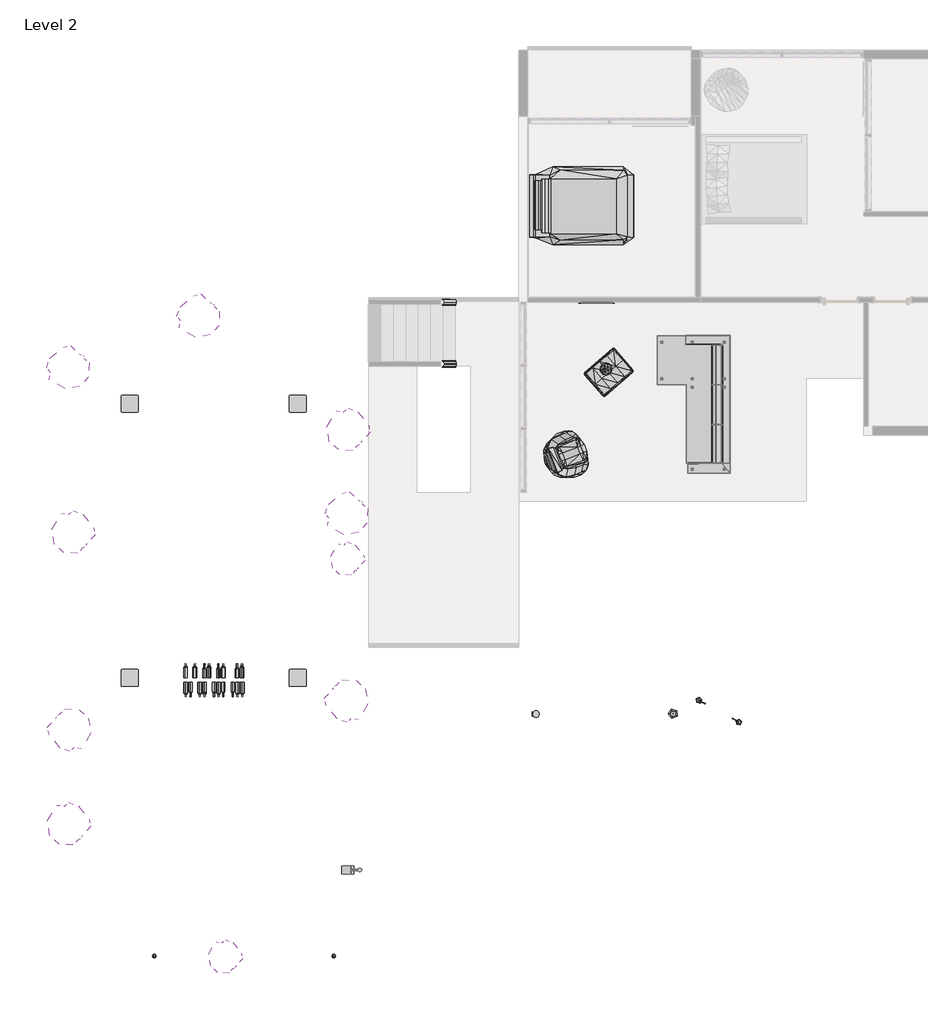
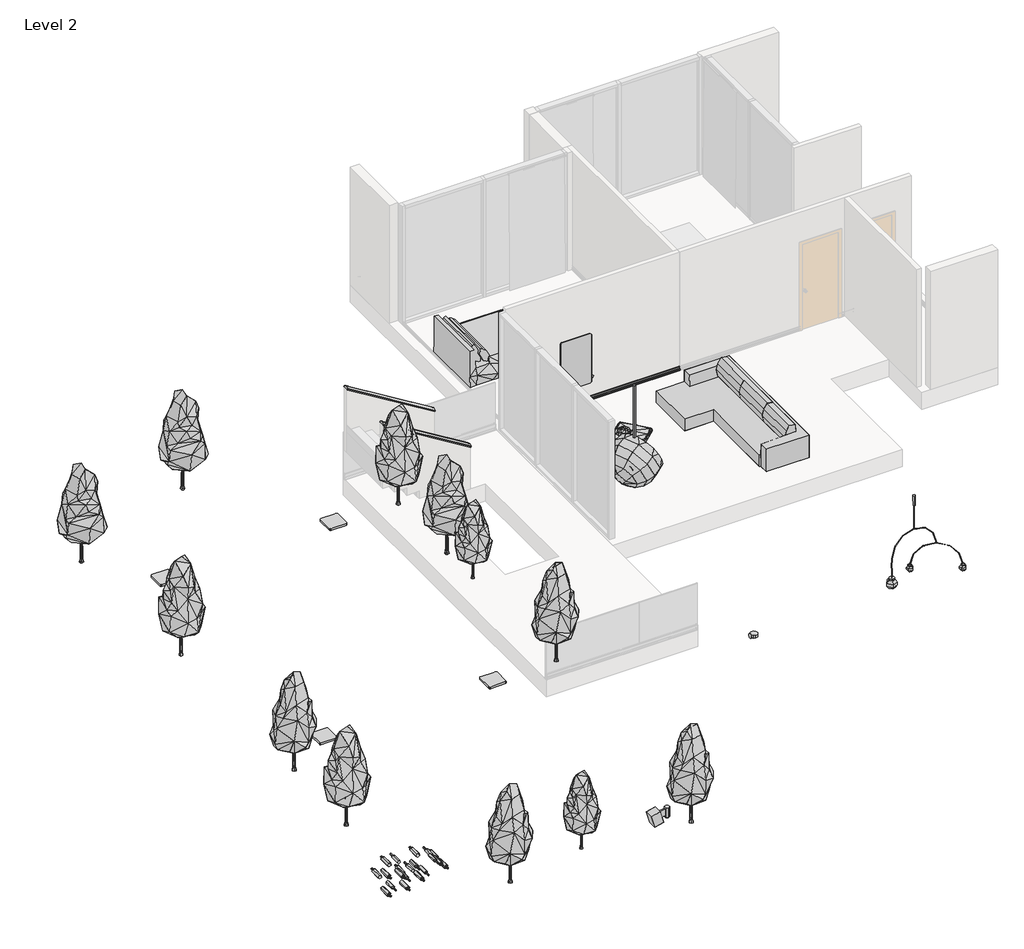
# One storey, part 2 of 4: 44 geographic elements, 3 proxies.
"""IFC4 building model written with IfcOpenShell, lengths in millimetres."""

from ifc_helpers import new_model, si_unit, frame, origin, place, context, project, spatial, polyline, circle_curve, ellipse_curve, transform, mapped, element, save
from ifc_brep_helpers import plane_surface, cylinder_surface, revolved_surface, advanced_brep
from components import generic_models_13_generic_models_13_96213cae, generic_models_14_generic_models_13_79633aa3, geographic_element_70561a7e, geographic_element_4481aa39, geographic_element_8738e9c9, geographic_element_a222e020, enscape_assetdefinition_armchair_053_enscape_assetdefinition_fb0e28e1, enscape_assetdefinition_bottle_005_wine_enscape_f84a86c7, enscape_assetdefinition_bottle_007_enscape_assetdefinition_5efa946b, enscape_assetdefinition_ceiling_lamp_001_enscape_b66385b6, enscape_assetdefinition_ceiling_lamp_001_enscape_6d65e554, enscape_assetdefinition_pendant_lamp_015_enscape_c86082a4, enscape_assetdefinition_photo_grid_001_enscape_8e951b4d, enscape_assetdefinition_pillow_017_enscape_assetdefinition_b1578f92, enscape_assetdefinition_speaker_005_enscape_assetdefinition_121e6e26, enscape_assetdefinition_wall_lamp_004_enscape_fca63363

model = new_model("IFC4")

# Units and contexts
model_context = context("Model", 3, world=origin())
ifc_project = project(units=[si_unit("LENGTHUNIT", "METRE", prefix="MILLI")], contexts=[model_context])

# Site, building, storey
site = spatial("IfcSite", under=ifc_project)
building = spatial("IfcBuilding", under=site)
storey = spatial("IfcBuildingStorey", under=building, Name="Level 2", Elevation=4200.0)

# Proxies
placement = place(None, origin())
element("IfcBuildingElementProxy", 1, Name="Brick Soldier Course", ObjectType="Brick Soldier Course", at=placement, inside=storey, context=model_context, shape_type="AdvancedBrep", body=[
    advanced_brep(
    [(16943.1337784, 13066.9206658, 4300.0), (16943.1337784, 13066.9206658, 4200.0), (16943.1337784, 13053.7928378, 4200.0), (16943.1337784, 13059.2884138, 4216.7363778), (16943.1337784, 13060.6531616, 4217.9313406), (16943.1337784, 13061.9206658, 4217.9313406), (16943.1337784, 13061.9206658, 4225.0), (16943.1337784, 13060.8836184, 4225.0), (16943.1337784, 13059.4323924, 4226.451226), (16943.1337784, 13059.4323924, 4248.5), (16943.1337784, 13060.9323924, 4250.0), (16943.1337784, 13064.4323924, 4250.0), (16943.1337784, 13064.4323924, 4290.0), (16943.1337784, 13063.3572238, 4290.0), (16943.1337784, 13061.9206658, 4291.4365579), (16943.1337784, 13061.9206658, 4295.9967275), (16943.1337784, 13065.9239384, 4300.0), (20843.1337784, 13066.9206658, 4300.0), (20844.1305058, 13065.9239384, 4300.0), (20848.1337784, 13061.9206658, 4295.9967275), (20848.1337784, 13061.9206658, 4291.4365579), (20846.6972204, 13063.3572238, 4290.0), (20845.6220518, 13064.4323924, 4290.0), (20845.6220518, 13064.4323924, 4250.0), (20849.1220518, 13060.9323924, 4250.0), (20850.6220518, 13059.4323924, 4248.5), (20850.6220518, 13059.4323924, 4226.451226), (20849.1708258, 13060.8836184, 4225.0), (20848.1337784, 13061.9206658, 4225.0), (20848.1337784, 13061.9206658, 4217.9313406), (20849.4012827, 13060.6531616, 4217.9313406), (20850.7660304, 13059.2884138, 4216.7363778), (20856.2616065, 13053.7928378, 4200.0), (20843.1337784, 13066.9206658, 4200.0)],
    [
        (0, 1),
        (1, 2),
        (2, 3, circle_curve(frame((16943.1337784, 13011.7757488, 4223.0672348), z_axis=(1.0, 0.0, 0.0), x_axis=(0.0, -1.0, 0.0)), 47.932589)),
        (3, 4, circle_curve(frame((16943.1337784, 13060.6531616, 4216.554531), z_axis=(-1.0, 0.0, 0.0), x_axis=(0.0, -1.0, 0.0)), 1.3768096)),
        (4, 5),
        (5, 6),
        (6, 7),
        (7, 8, circle_curve(frame((16943.1337784, 13060.8836184, 4226.451226), z_axis=(-1.0, 0.0, 0.0), x_axis=(0.0, -1.0, 0.0)), 1.451226)),
        (8, 9),
        (9, 10, circle_curve(frame((16943.1337784, 13060.9323924, 4248.5), z_axis=(-1.0, 0.0, 0.0), x_axis=(0.0, -1.0, 0.0)), 1.5)),
        (10, 11),
        (11, 12),
        (12, 13),
        (13, 14, circle_curve(frame((16943.1337784, 13063.3572238, 4291.4365579), z_axis=(-1.0, 0.0, 0.0), x_axis=(0.0, -1.0, 0.0)), 1.4365579)),
        (14, 15),
        (15, 16, circle_curve(frame((16943.1337784, 13065.9239384, 4295.9967275), z_axis=(-1.0, 0.0, 0.0), x_axis=(0.0, -1.0, 0.0)), 4.0032725)),
        (16, 0),
        (17, 18),
        (18, 19, ellipse_curve(frame((20844.1305058, 13065.9239384, 4295.9967275), z_axis=(0.7071067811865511, 0.707106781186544, 0.0), x_axis=(-0.7071067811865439, 0.7071067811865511, 0.0)), 5.6614823, 4.0032725)),
        (19, 20),
        (20, 21, ellipse_curve(frame((20846.6972204, 13063.3572238, 4291.4365579), z_axis=(0.7071067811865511, 0.707106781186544, 0.0), x_axis=(-0.7071067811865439, 0.7071067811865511, 0.0)), 2.0315997, 1.4365579)),
        (21, 22),
        (22, 23),
        (23, 24),
        (24, 25, ellipse_curve(frame((20849.1220518, 13060.9323924, 4248.5), z_axis=(0.7071067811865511, 0.707106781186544, 0.0), x_axis=(-0.7071067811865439, 0.7071067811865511, 0.0)), 2.1213203, 1.5)),
        (25, 26),
        (26, 27, ellipse_curve(frame((20849.1708258, 13060.8836184, 4226.451226), z_axis=(0.7071067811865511, 0.707106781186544, 0.0), x_axis=(-0.7071067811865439, 0.7071067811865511, 0.0)), 2.0523435, 1.451226)),
        (27, 28),
        (28, 29),
        (29, 30),
        (30, 31, ellipse_curve(frame((20849.4012827, 13060.6531616, 4216.554531), z_axis=(0.7071067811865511, 0.707106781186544, 0.0), x_axis=(-0.7071067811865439, 0.7071067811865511, 0.0)), 1.9471028, 1.3768096)),
        (31, 32, ellipse_curve(frame((20898.2786954, 13011.7757488, 4223.0672348), z_axis=(-0.7071067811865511, -0.707106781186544, 0.0), x_axis=(0.7071067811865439, -0.7071067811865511, 0.0)), 67.7869174, 47.932589)),
        (32, 33),
        (33, 17),
        (0, 17),
        (33, 1),
        (32, 2),
        (31, 3),
        (30, 4),
        (29, 5),
        (28, 6),
        (27, 7),
        (26, 8),
        (25, 9),
        (24, 10),
        (23, 11),
        (22, 12),
        (21, 13),
        (20, 14),
        (19, 15),
        (18, 16),
    ],
    [
        plane_surface(frame((16943.1337784, 13066.9206658, 4099.9950328), z_axis=(-1.0, 0.0, 0.0), x_axis=(0.0, 1.0, 0.0))),
        plane_surface(frame((20843.1337784, 13066.9206658, 3895.2), z_axis=(0.7071067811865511, 0.707106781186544, 0.0), x_axis=(-0.707106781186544, 0.7071067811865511, 0.0))),
        plane_surface(frame((16943.1337784, 13066.9206658, 4300.0), z_axis=(0.0, 1.0, 0.0), x_axis=(1.0, 0.0, 0.0))),
        plane_surface(frame((16943.1337784, 13066.9206658, 4200.0), z_axis=(0.0, 0.0, -1.0), x_axis=(1.0, 0.0, 0.0))),
        revolved_surface(polyline([(20946.211284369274, 12963.8431598, 4223.0672348), (16943.1337784, 12963.8431598, 4223.0672348)]), (16943.1337784, 13011.7757488, 4223.0672348), (1.0, 0.0, 0.0)),
        cylinder_surface(frame((16943.1337784, 13060.6531616, 4216.554531), z_axis=(-1.0, 0.0, 0.0), x_axis=(0.0, -1.0, 0.0)), 1.3768096),
        plane_surface(frame((16943.1337784, 13060.6531616, 4217.9313406), z_axis=(0.0, 0.0, 1.0), x_axis=(1.0, 0.0, 0.0))),
        plane_surface(frame((16943.1337784, 13061.9206658, 4217.9313406), z_axis=(0.0, -1.0, 0.0), x_axis=(1.0, 0.0, 0.0))),
        plane_surface(frame((16943.1337784, 13061.9206658, 4225.0), z_axis=(0.0, 0.0, -1.0), x_axis=(1.0, 0.0, 0.0))),
        cylinder_surface(frame((16943.1337784, 13060.8836184, 4226.451226), z_axis=(-1.0, 0.0, 0.0), x_axis=(0.0, -1.0, 0.0)), 1.451226),
        plane_surface(frame((16943.1337784, 13059.4323924, 4226.451226), z_axis=(0.0, -1.0, 0.0), x_axis=(1.0, 0.0, 0.0))),
        cylinder_surface(frame((16943.1337784, 13060.9323924, 4248.5), z_axis=(-1.0, 0.0, 0.0), x_axis=(0.0, -1.0, 0.0)), 1.5),
        plane_surface(frame((16943.1337784, 13060.9323924, 4250.0), z_axis=(0.0, 0.0, 1.0), x_axis=(1.0, 0.0, 0.0))),
        plane_surface(frame((16943.1337784, 13064.4323924, 4250.0), z_axis=(0.0, -1.0, 0.0), x_axis=(1.0, 0.0, 0.0))),
        plane_surface(frame((16943.1337784, 13064.4323924, 4290.0), z_axis=(0.0, 0.0, -1.0), x_axis=(1.0, 0.0, 0.0))),
        cylinder_surface(frame((16943.1337784, 13063.3572238, 4291.4365579), z_axis=(-1.0, 0.0, 0.0), x_axis=(0.0, -1.0, 0.0)), 1.4365579),
        plane_surface(frame((16943.1337784, 13061.9206658, 4291.4365579), z_axis=(0.0, -1.0, 0.0), x_axis=(1.0, 0.0, 0.0))),
        cylinder_surface(frame((16943.1337784, 13065.9239384, 4295.9967275), z_axis=(-1.0, 0.0, 0.0), x_axis=(0.0, -1.0, 0.0)), 4.0032725),
        plane_surface(frame((16943.1337784, 13065.9239384, 4300.0), z_axis=(0.0, 0.0, 1.0), x_axis=(1.0, 0.0, 0.0))),
    ],
    [
        (0, [[1, 2, 3, 4, 5, 6, 7, 8, 9, 10, 11, 12, 13, 14, 15, 16, 17]]),
        (1, [[18, 19, 20, 21, 22, 23, 24, 25, 26, 27, 28, 29, 30, 31, 32, 33, 34]]),
        (2, [[-1, 35, -34, 36]]),
        (3, [[-2, -36, -33, 37]]),
        (4, [[-3, -37, -32, 38]]),
        (5, [[-4, -38, -31, 39]]),
        (6, [[-5, -39, -30, 40]]),
        (7, [[-6, -40, -29, 41]]),
        (8, [[-7, -41, -28, 42]]),
        (9, [[-8, -42, -27, 43]]),
        (10, [[-9, -43, -26, 44]]),
        (11, [[-10, -44, -25, 45]]),
        (12, [[-11, -45, -24, 46]]),
        (13, [[-12, -46, -23, 47]]),
        (14, [[-13, -47, -22, 48]]),
        (15, [[-14, -48, -21, 49]]),
        (16, [[-15, -49, -20, 50]]),
        (17, [[-16, -50, -19, 51]]),
        (18, [[-17, -51, -18, -35]]),
    ],
),
])
generic_models_13_generic_models_13_shape = generic_models_13_generic_models_13_96213cae(model_context)
element("IfcBuildingElementProxy", 2, Name="Generic Models 13 : Generic Models 13", ObjectType="Generic Models 13 : Generic Models 13", at=placement, inside=storey, context=model_context, shape_type="MappedRepresentation", body=[
    mapped(generic_models_13_generic_models_13_shape, transform((0.0, 0.0, 0.0), x_axis=(1.0, 0.0, 0.0), y_axis=(0.0, 1.0, 0.0), z_axis=(0.0, 0.0, 1.0))),
])
generic_models_14_generic_models_13_shape = generic_models_14_generic_models_13_79633aa3(model_context)
element("IfcBuildingElementProxy", 3, Name="Generic Models 14 : Generic Models 13", ObjectType="Generic Models 14 : Generic Models 13", at=placement, inside=storey, context=model_context, shape_type="MappedRepresentation", body=[
    mapped(generic_models_14_generic_models_13_shape, transform((0.0, 0.0, 0.0), x_axis=(1.0, 0.0, 0.0), y_axis=(0.0, 1.0, 0.0), z_axis=(0.0, 0.0, 1.0))),
])

# Geographic elements
geographic_element_shape = geographic_element_70561a7e(model_context)
element("IfcGeographicElement", 4, ObjectType="Enscape AssetDefinition - Cello Loveseat with Chaise : Enscape AssetDefinition - Cello Loveseat with Chaise", at=placement, inside=storey, context=model_context, shape_type="MappedRepresentation", body=[
    mapped(geographic_element_shape, transform((20693.1337784, 10754.720421, 4200.0), x_axis=(0.0, -1.0, 0.0), y_axis=(1.0, 0.0, 0.0), z_axis=(0.0, 0.0, 1.0))),
])
geographic_element_2_shape = geographic_element_4481aa39(model_context)
element("IfcGeographicElement", 5, ObjectType="Enscape AssetDefinition - Bed 013 138x212 cm (54x83 in) : Enscape AssetDefinition - Bed 013 138x212 cm (54x83 in)", at=placement, inside=storey, context=model_context, shape_type="MappedRepresentation", body=[
    mapped(geographic_element_2_shape, transform((18043.1337784, 15240.8320087, 4200.0), x_axis=(0.0, 1.0, 0.0), y_axis=(-1.0, 0.0, 0.0), z_axis=(0.0, 0.0, 1.0))),
])
geographic_element_3_shape = geographic_element_8738e9c9(model_context)
element("IfcGeographicElement", 6, ObjectType="Enscape AssetDefinition - Coniferous Tree 017 Spruce : Enscape AssetDefinition - Coniferous Tree 017 Spruce 3", at=placement, inside=storey, context=model_context, shape_type="MappedRepresentation", body=[
    mapped(geographic_element_3_shape, transform((6543.1337784, 1266.9206658, 5600.0), x_axis=(1.0, 0.0, 0.0), y_axis=(0.0, 1.0, 0.0), z_axis=(0.0, 0.0, 1.0))),
])
element("IfcGeographicElement", 7, ObjectType="Enscape AssetDefinition - Coniferous Tree 017 Spruce : Enscape AssetDefinition - Coniferous Tree 017 Spruce 3", at=placement, inside=storey, context=model_context, shape_type="MappedRepresentation", body=[
    mapped(geographic_element_3_shape, transform((12560.1324478, -1723.574196, 5371.6411496), x_axis=(-1.0, 0.0, 0.0), y_axis=(0.0, -1.0, 0.0), z_axis=(0.0, 0.0, 1.0))),
])
element("IfcGeographicElement", 8, ObjectType="Enscape AssetDefinition - Coniferous Tree 017 Spruce : Enscape AssetDefinition - Coniferous Tree 017 Spruce 3", at=placement, inside=storey, context=model_context, shape_type="MappedRepresentation", body=[
    mapped(geographic_element_3_shape, transform((8500.1324478, -1723.574196, 5371.6411496), x_axis=(-1.0, 0.0, 0.0), y_axis=(0.0, -1.0, 0.0), z_axis=(0.0, 0.0, 1.0))),
])
element("IfcGeographicElement", 9, ObjectType="Enscape AssetDefinition - Coniferous Tree 017 Spruce : Enscape AssetDefinition - Coniferous Tree 017 Spruce 3", at=placement, inside=storey, context=model_context, shape_type="MappedRepresentation", body=[
    mapped(geographic_element_3_shape, transform((12843.1337784, 8266.4728324, 5600.0), x_axis=(0.0, 1.0, 0.0), y_axis=(-1.0, 0.0, 0.0), z_axis=(0.0, 0.0, 1.0))),
])
element("IfcGeographicElement", 10, ObjectType="Enscape AssetDefinition - Coniferous Tree 017 Spruce : Enscape AssetDefinition - Coniferous Tree 017 Spruce 3", at=placement, inside=storey, context=model_context, shape_type="MappedRepresentation", body=[
    mapped(geographic_element_3_shape, transform((12863.1337784, 10186.4728324, 5600.0), x_axis=(1.0, 0.0, 0.0), y_axis=(0.0, 1.0, 0.0), z_axis=(0.0, 0.0, 1.0))),
])
element("IfcGeographicElement", 11, ObjectType="Enscape AssetDefinition - Coniferous Tree 017 Spruce : Enscape AssetDefinition - Coniferous Tree 017 Spruce 3", at=placement, inside=storey, context=model_context, shape_type="MappedRepresentation", body=[
    mapped(geographic_element_3_shape, transform((9492.0176798, 12734.8206389, 5600.0), x_axis=(0.0, 1.0, 0.0), y_axis=(-1.0, 0.0, 0.0), z_axis=(0.0, 0.0, 1.0))),
])
element("IfcGeographicElement", 12, ObjectType="Enscape AssetDefinition - Coniferous Tree 017 Spruce : Enscape AssetDefinition - Coniferous Tree 017 Spruce 3", at=placement, inside=storey, context=model_context, shape_type="MappedRepresentation", body=[
    mapped(geographic_element_3_shape, transform((6543.1337784, 11566.9206658, 5600.0), x_axis=(0.0, 1.0, 0.0), y_axis=(-1.0, 0.0, 0.0), z_axis=(0.0, 0.0, 1.0))),
])
element("IfcGeographicElement", 13, ObjectType="Enscape AssetDefinition - Coniferous Tree 017 Spruce : Enscape AssetDefinition - Coniferous Tree 017 Spruce 3", at=placement, inside=storey, context=model_context, shape_type="MappedRepresentation", body=[
    mapped(geographic_element_3_shape, transform((6643.1337784, 7866.9206658, 5600.0), x_axis=(1.0, 0.0, 0.0), y_axis=(0.0, 1.0, 0.0), z_axis=(0.0, 0.0, 1.0))),
])
element("IfcGeographicElement", 14, ObjectType="Enscape AssetDefinition - Coniferous Tree 017 Spruce : Enscape AssetDefinition - Coniferous Tree 017 Spruce 3", at=placement, inside=storey, context=model_context, shape_type="MappedRepresentation", body=[
    mapped(geographic_element_3_shape, transform((6597.2031141, 3387.7730261, 5600.0), x_axis=(-1.0, 0.0, 0.0), y_axis=(0.0, -1.0, 0.0), z_axis=(0.0, 0.0, 1.0))),
])
element("IfcGeographicElement", 15, ObjectType="Enscape AssetDefinition - Coniferous Tree 017 Spruce : Enscape AssetDefinition - Coniferous Tree 017 Spruce 3", at=placement, inside=storey, context=model_context, shape_type="MappedRepresentation", body=[
    mapped(geographic_element_3_shape, transform((12862.6910549, 4046.3023447, 5600.0), x_axis=(-1.0, 0.0, 0.0), y_axis=(0.0, -1.0, 0.0), z_axis=(0.0, 0.0, 1.0))),
])
geographic_element_4_shape = geographic_element_a222e020(model_context)
element("IfcGeographicElement", 16, ObjectType="Enscape AssetDefinition - Coniferous Tree 017 Spruce : Enscape AssetDefinition - Coniferous Tree 017 Spruce 4", at=placement, inside=storey, context=model_context, shape_type="MappedRepresentation", body=[
    mapped(geographic_element_4_shape, transform((12850.4471756, 7266.4728324, 5610.7154902), x_axis=(1.0, 0.0, 0.0), y_axis=(0.0, 1.0, 0.0), z_axis=(0.0, 0.0, 1.0))),
])
element("IfcGeographicElement", 17, ObjectType="Enscape AssetDefinition - Coniferous Tree 017 Spruce : Enscape AssetDefinition - Coniferous Tree 017 Spruce 4", at=placement, inside=storey, context=model_context, shape_type="MappedRepresentation", body=[
    mapped(geographic_element_4_shape, transform((10090.4471756, -1733.0793342, 5610.7154902), x_axis=(1.0, 0.0, 0.0), y_axis=(0.0, 1.0, 0.0), z_axis=(0.0, 0.0, 1.0))),
])
enscape_assetdefinition_armchair_053_enscape_assetdefinition_shape = enscape_assetdefinition_armchair_053_enscape_assetdefinition_fb0e28e1(model_context)
element("IfcGeographicElement", 18, ObjectType="Enscape AssetDefinition - Armchair 053 : Enscape AssetDefinition - Armchair 053", at=placement, inside=storey, context=model_context, shape_type="MappedRepresentation", body=[
    mapped(enscape_assetdefinition_armchair_053_enscape_assetdefinition_shape, transform((17829.7579881, 9606.7371201, 7000.0), x_axis=(-0.3658121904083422, 0.9306886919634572, 0.0), y_axis=(-0.9306886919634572, -0.3658121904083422, 0.0), z_axis=(0.0, 0.0, 1.0))),
])
enscape_assetdefinition_bottle_005_wine_enscape_shape = enscape_assetdefinition_bottle_005_wine_enscape_f84a86c7(model_context)
element("IfcGeographicElement", 19, ObjectType="Enscape AssetDefinition - Bottle 005 Wine : Enscape AssetDefinition - Bottle 005 Wine", at=placement, inside=storey, context=model_context, shape_type="MappedRepresentation", body=[
    mapped(enscape_assetdefinition_bottle_005_wine_enscape_shape, transform((9945.0927734, 4566.9206658, 1284.9401017), x_axis=(-0.7071067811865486, 0.0, 0.7071067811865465), y_axis=(0.7071067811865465, 0.0, 0.7071067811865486), z_axis=(0.0, 1.0, 0.0))),
])
element("IfcGeographicElement", 20, ObjectType="Enscape AssetDefinition - Bottle 005 Wine : Enscape AssetDefinition - Bottle 005 Wine", at=placement, inside=storey, context=model_context, shape_type="MappedRepresentation", body=[
    mapped(enscape_assetdefinition_bottle_005_wine_enscape_shape, transform((9629.8840336, 4566.9206658, 1600.1488414), x_axis=(-0.7071067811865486, 0.0, 0.7071067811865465), y_axis=(0.7071067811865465, 0.0, 0.7071067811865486), z_axis=(0.0, 1.0, 0.0))),
])
element("IfcGeographicElement", 21, ObjectType="Enscape AssetDefinition - Bottle 005 Wine : Enscape AssetDefinition - Bottle 005 Wine", at=placement, inside=storey, context=model_context, shape_type="MappedRepresentation", body=[
    mapped(enscape_assetdefinition_bottle_005_wine_enscape_shape, transform((10368.7333197, 4566.9206658, 1495.4995398), x_axis=(-0.7071067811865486, 0.0, 0.7071067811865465), y_axis=(0.7071067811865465, 0.0, 0.7071067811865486), z_axis=(0.0, 1.0, 0.0))),
])
element("IfcGeographicElement", 22, ObjectType="Enscape AssetDefinition - Bottle 005 Wine : Enscape AssetDefinition - Bottle 005 Wine", at=placement, inside=storey, context=model_context, shape_type="MappedRepresentation", body=[
    mapped(enscape_assetdefinition_bottle_005_wine_enscape_shape, transform((9632.2540823, 4466.9206658, 1408.0249527), x_axis=(-0.7071067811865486, 0.0, 0.7071067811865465), y_axis=(-0.7071067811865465, 0.0, -0.7071067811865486), z_axis=(0.0, -1.0, 0.0))),
])
element("IfcGeographicElement", 23, ObjectType="Enscape AssetDefinition - Bottle 005 Wine : Enscape AssetDefinition - Bottle 005 Wine", at=placement, inside=storey, context=model_context, shape_type="MappedRepresentation", body=[
    mapped(enscape_assetdefinition_bottle_005_wine_enscape_shape, transform((10056.0928625, 4466.9206658, 1394.3276823), x_axis=(-0.7071067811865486, 0.0, 0.7071067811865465), y_axis=(-0.7071067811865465, 0.0, -0.7071067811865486), z_axis=(0.0, -1.0, 0.0))),
])
element("IfcGeographicElement", 24, ObjectType="Enscape AssetDefinition - Bottle 005 Wine : Enscape AssetDefinition - Bottle 005 Wine", at=placement, inside=storey, context=model_context, shape_type="MappedRepresentation", body=[
    mapped(enscape_assetdefinition_bottle_005_wine_enscape_shape, transform((9317.7311865, 4466.9206658, 1293.0810196), x_axis=(-0.7071067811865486, 0.0, 0.7071067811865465), y_axis=(-0.7071067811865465, 0.0, -0.7071067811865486), z_axis=(0.0, -1.0, 0.0))),
])
element("IfcGeographicElement", 25, ObjectType="Enscape AssetDefinition - Bottle 005 Wine : Enscape AssetDefinition - Bottle 005 Wine", at=placement, inside=storey, context=model_context, shape_type="MappedRepresentation", body=[
    mapped(enscape_assetdefinition_bottle_005_wine_enscape_shape, transform((10270.8889865, 4466.9206658, 1605.2838287), x_axis=(-0.7071067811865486, 0.0, 0.7071067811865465), y_axis=(-0.7071067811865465, 0.0, -0.7071067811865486), z_axis=(0.0, -1.0, 0.0))),
])
element("IfcGeographicElement", 26, ObjectType="Enscape AssetDefinition - Bottle 005 Wine : Enscape AssetDefinition - Bottle 005 Wine", at=placement, inside=storey, context=model_context, shape_type="MappedRepresentation", body=[
    mapped(enscape_assetdefinition_bottle_005_wine_enscape_shape, transform((9845.1323837, 4466.9206658, 1611.3062921), x_axis=(-0.7071067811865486, 0.0, 0.7071067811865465), y_axis=(-0.7071067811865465, 0.0, -0.7071067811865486), z_axis=(0.0, -1.0, 0.0))),
])
enscape_assetdefinition_bottle_007_enscape_assetdefinition_shape = enscape_assetdefinition_bottle_007_enscape_assetdefinition_5efa946b(model_context)
element("IfcGeographicElement", 27, ObjectType="Enscape AssetDefinition - Bottle 007 : Enscape AssetDefinition - Bottle 007 2", at=placement, inside=storey, context=model_context, shape_type="MappedRepresentation", body=[
    mapped(enscape_assetdefinition_bottle_007_enscape_assetdefinition_shape, transform((10056.1521552, 4566.9206658, 1611.1144073), x_axis=(-0.7071067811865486, 0.0, 0.7071067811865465), y_axis=(0.7071067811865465, 0.0, 0.7071067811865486), z_axis=(0.0, 1.0, 0.0))),
])
element("IfcGeographicElement", 28, ObjectType="Enscape AssetDefinition - Bottle 007 : Enscape AssetDefinition - Bottle 007 2", at=placement, inside=storey, context=model_context, shape_type="MappedRepresentation", body=[
    mapped(enscape_assetdefinition_bottle_007_enscape_assetdefinition_shape, transform((9735.0479582, 4566.9206658, 1293.5153732), x_axis=(-0.7071067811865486, 0.0, 0.7071067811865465), y_axis=(0.7071067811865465, 0.0, 0.7071067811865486), z_axis=(0.0, 1.0, 0.0))),
])
element("IfcGeographicElement", 29, ObjectType="Enscape AssetDefinition - Bottle 007 : Enscape AssetDefinition - Bottle 007 2", at=placement, inside=storey, context=model_context, shape_type="MappedRepresentation", body=[
    mapped(enscape_assetdefinition_bottle_007_enscape_assetdefinition_shape, transform((9205.470797, 4566.9206658, 1395.6840942), x_axis=(-0.7071067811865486, 0.0, 0.7071067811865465), y_axis=(0.7071067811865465, 0.0, 0.7071067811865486), z_axis=(0.0, 1.0, 0.0))),
])
element("IfcGeographicElement", 30, ObjectType="Enscape AssetDefinition - Bottle 007 : Enscape AssetDefinition - Bottle 007 2", at=placement, inside=storey, context=model_context, shape_type="MappedRepresentation", body=[
    mapped(enscape_assetdefinition_bottle_007_enscape_assetdefinition_shape, transform((10479.8875851, 4566.9206658, 1395.5084368), x_axis=(-0.7071067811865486, 0.0, 0.7071067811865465), y_axis=(0.7071067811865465, 0.0, 0.7071067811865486), z_axis=(0.0, 1.0, 0.0))),
])
element("IfcGeographicElement", 31, ObjectType="Enscape AssetDefinition - Bottle 007 : Enscape AssetDefinition - Bottle 007 2", at=placement, inside=storey, context=model_context, shape_type="MappedRepresentation", body=[
    mapped(enscape_assetdefinition_bottle_007_enscape_assetdefinition_shape, transform((9414.8385119, 4566.9206658, 1608.9471365), x_axis=(-0.7071067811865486, 0.0, 0.7071067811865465), y_axis=(0.7071067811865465, 0.0, 0.7071067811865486), z_axis=(0.0, 1.0, 0.0))),
])
element("IfcGeographicElement", 32, ObjectType="Enscape AssetDefinition - Bottle 007 : Enscape AssetDefinition - Bottle 007 2", at=placement, inside=storey, context=model_context, shape_type="MappedRepresentation", body=[
    mapped(enscape_assetdefinition_bottle_007_enscape_assetdefinition_shape, transform((9522.9187982, 4466.9206658, 1507.097994), x_axis=(-0.7071067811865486, 0.0, 0.7071067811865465), y_axis=(-0.7071067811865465, 0.0, -0.7071067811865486), z_axis=(0.0, -1.0, 0.0))),
])
element("IfcGeographicElement", 33, ObjectType="Enscape AssetDefinition - Bottle 007 : Enscape AssetDefinition - Bottle 007 2", at=placement, inside=storey, context=model_context, shape_type="MappedRepresentation", body=[
    mapped(enscape_assetdefinition_bottle_007_enscape_assetdefinition_shape, transform((9949.4206792, 4466.9206658, 1300.7711829), x_axis=(-0.7071067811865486, 0.0, 0.7071067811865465), y_axis=(-0.7071067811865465, 0.0, -0.7071067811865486), z_axis=(0.0, -1.0, 0.0))),
])
element("IfcGeographicElement", 34, ObjectType="Enscape AssetDefinition - Bottle 007 : Enscape AssetDefinition - Bottle 007 2", at=placement, inside=storey, context=model_context, shape_type="MappedRepresentation", body=[
    mapped(enscape_assetdefinition_bottle_007_enscape_assetdefinition_shape, transform((10484.5515615, 4466.9206658, 1407.7456246), x_axis=(-0.7071067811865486, 0.0, 0.7071067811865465), y_axis=(-0.7071067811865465, 0.0, -0.7071067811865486), z_axis=(0.0, -1.0, 0.0))),
])
element("IfcGeographicElement", 35, ObjectType="Enscape AssetDefinition - Bottle 007 : Enscape AssetDefinition - Bottle 007 2", at=placement, inside=storey, context=model_context, shape_type="MappedRepresentation", body=[
    mapped(enscape_assetdefinition_bottle_007_enscape_assetdefinition_shape, transform((9206.4840854, 4466.9206658, 1187.8877576), x_axis=(-0.7071067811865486, 0.0, 0.7071067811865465), y_axis=(-0.7071067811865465, 0.0, -0.7071067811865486), z_axis=(0.0, -1.0, 0.0))),
])
element("IfcGeographicElement", 36, ObjectType="Enscape AssetDefinition - Bottle 007 : Enscape AssetDefinition - Bottle 007 2", at=placement, inside=storey, context=model_context, shape_type="MappedRepresentation", body=[
    mapped(enscape_assetdefinition_bottle_007_enscape_assetdefinition_shape, transform((9206.3712732, 4466.9206658, 1615.5685516), x_axis=(-0.7071067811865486, 0.0, 0.7071067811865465), y_axis=(-0.7071067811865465, 0.0, -0.7071067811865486), z_axis=(0.0, -1.0, 0.0))),
])
element("IfcGeographicElement", 37, ObjectType="Enscape AssetDefinition - Bottle 007 : Enscape AssetDefinition - Bottle 007 2", at=placement, inside=storey, context=model_context, shape_type="MappedRepresentation", body=[
    mapped(enscape_assetdefinition_bottle_007_enscape_assetdefinition_shape, transform((10375.9722318, 4466.9206658, 1511.6406314), x_axis=(-0.7071067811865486, 0.0, 0.7071067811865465), y_axis=(-0.7071067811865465, 0.0, -0.7071067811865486), z_axis=(0.0, -1.0, 0.0))),
])
element("IfcGeographicElement", 38, ObjectType="Enscape AssetDefinition - Bottle 007 : Enscape AssetDefinition - Bottle 007 2", at=placement, inside=storey, context=model_context, shape_type="MappedRepresentation", body=[
    mapped(enscape_assetdefinition_bottle_007_enscape_assetdefinition_shape, transform((9629.791103, 4466.9206658, 1188.9984015), x_axis=(-0.7071067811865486, 0.0, 0.7071067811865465), y_axis=(-0.7071067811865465, 0.0, -0.7071067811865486), z_axis=(0.0, -1.0, 0.0))),
])
enscape_assetdefinition_ceiling_lamp_001_enscape_shape = enscape_assetdefinition_ceiling_lamp_001_enscape_b66385b6(model_context)
element("IfcGeographicElement", 39, ObjectType="Enscape AssetDefinition - Ceiling Lamp 001 : Enscape AssetDefinition - Ceiling Lamp 001", at=placement, inside=storey, context=model_context, shape_type="MappedRepresentation", body=[
    mapped(enscape_assetdefinition_ceiling_lamp_001_enscape_shape, transform((11743.1337784, 10766.9206658, 5200.0), x_axis=(1.0, 0.0, 0.0), y_axis=(0.0, 1.0, 0.0), z_axis=(0.0, 0.0, 1.0))),
])
element("IfcGeographicElement", 40, ObjectType="Enscape AssetDefinition - Ceiling Lamp 001 : Enscape AssetDefinition - Ceiling Lamp 001", at=placement, inside=storey, context=model_context, shape_type="MappedRepresentation", body=[
    mapped(enscape_assetdefinition_ceiling_lamp_001_enscape_shape, transform((11743.1337784, 4566.9206658, 5200.0), x_axis=(1.0, 0.0, 0.0), y_axis=(0.0, 1.0, 0.0), z_axis=(0.0, 0.0, 1.0))),
])
enscape_assetdefinition_ceiling_lamp_001_enscape_2_shape = enscape_assetdefinition_ceiling_lamp_001_enscape_6d65e554(model_context)
element("IfcGeographicElement", 41, ObjectType="Enscape AssetDefinition - Ceiling Lamp 001 : Enscape AssetDefinition - Ceiling Lamp 001", at=placement, inside=storey, context=model_context, shape_type="MappedRepresentation", body=[
    mapped(enscape_assetdefinition_ceiling_lamp_001_enscape_2_shape, transform((7943.1337784, 10766.9206658, 5200.0), x_axis=(-1.0, 0.0, 0.0), y_axis=(0.0, -1.0, 0.0), z_axis=(0.0, 0.0, 1.0))),
])
element("IfcGeographicElement", 42, ObjectType="Enscape AssetDefinition - Ceiling Lamp 001 : Enscape AssetDefinition - Ceiling Lamp 001", at=placement, inside=storey, context=model_context, shape_type="MappedRepresentation", body=[
    mapped(enscape_assetdefinition_ceiling_lamp_001_enscape_2_shape, transform((7943.1337784, 4566.9206658, 5200.0), x_axis=(-1.0, 0.0, 0.0), y_axis=(0.0, -1.0, 0.0), z_axis=(0.0, 0.0, 1.0))),
])
enscape_assetdefinition_pendant_lamp_015_enscape_shape = enscape_assetdefinition_pendant_lamp_015_enscape_c86082a4(model_context)
element("IfcGeographicElement", 43, ObjectType="Enscape AssetDefinition - Pendant Lamp 015 : Enscape AssetDefinition - Pendant Lamp 015 2", at=placement, inside=storey, context=model_context, shape_type="MappedRepresentation", body=[
    mapped(enscape_assetdefinition_pendant_lamp_015_enscape_shape, transform((20747.8097122, 3787.2247623, 6885.8327559), x_axis=(1.0, 0.0, 0.0), y_axis=(0.0, 1.0, 0.0), z_axis=(0.0, 0.0, 1.0))),
])
enscape_assetdefinition_photo_grid_001_enscape_shape = enscape_assetdefinition_photo_grid_001_enscape_8e951b4d(model_context)
element("IfcGeographicElement", 44, ObjectType="Enscape AssetDefinition - Photo Grid 001 : Enscape AssetDefinition - Photo Grid 001", at=placement, inside=storey, context=model_context, shape_type="MappedRepresentation", body=[
    mapped(enscape_assetdefinition_photo_grid_001_enscape_shape, transform((18498.5155905, 13066.9206658, 5200.0), x_axis=(1.0, 0.0, 0.0), y_axis=(0.0, 1.0, 0.0), z_axis=(0.0, 0.0, 1.0))),
])
enscape_assetdefinition_pillow_017_enscape_assetdefinition_shape = enscape_assetdefinition_pillow_017_enscape_assetdefinition_b1578f92(model_context)
element("IfcGeographicElement", 45, ObjectType="Enscape AssetDefinition - Pillow 017 : Enscape AssetDefinition - Pillow 017", at=placement, inside=storey, context=model_context, shape_type="MappedRepresentation", body=[
    mapped(enscape_assetdefinition_pillow_017_enscape_assetdefinition_shape, transform((18776.8180862, 11480.886932, 4200.0), x_axis=(0.754709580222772, 0.6560590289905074, 0.0), y_axis=(-0.6560590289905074, 0.754709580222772, 0.0), z_axis=(0.0, 0.0, 1.0))),
])
enscape_assetdefinition_speaker_005_enscape_assetdefinition_shape = enscape_assetdefinition_speaker_005_enscape_assetdefinition_121e6e26(model_context)
element("IfcGeographicElement", 46, ObjectType="Enscape AssetDefinition - Speaker 005 : Enscape AssetDefinition - Speaker 005", at=placement, inside=storey, context=model_context, shape_type="MappedRepresentation", body=[
    mapped(enscape_assetdefinition_speaker_005_enscape_assetdefinition_shape, transform((13143.1337784, 227.8321125, 4200.0), x_axis=(0.0, -1.0, 0.0), y_axis=(1.0, 0.0, 0.0), z_axis=(0.0, 0.0, 1.0))),
])
enscape_assetdefinition_wall_lamp_004_enscape_shape = enscape_assetdefinition_wall_lamp_004_enscape_fca63363(model_context)
element("IfcGeographicElement", 47, ObjectType="Enscape AssetDefinition - Wall Lamp 004 : Enscape AssetDefinition - Wall Lamp 004", at=placement, inside=storey, context=model_context, shape_type="MappedRepresentation", body=[
    mapped(enscape_assetdefinition_wall_lamp_004_enscape_shape, transform((17043.1337784, 3747.7694553, 4868.4567052), x_axis=(0.0, 1.0, 0.0), y_axis=(-1.0, 0.0, 0.0), z_axis=(0.0, 0.0, 1.0))),
])

save(model, "model.ifc")
